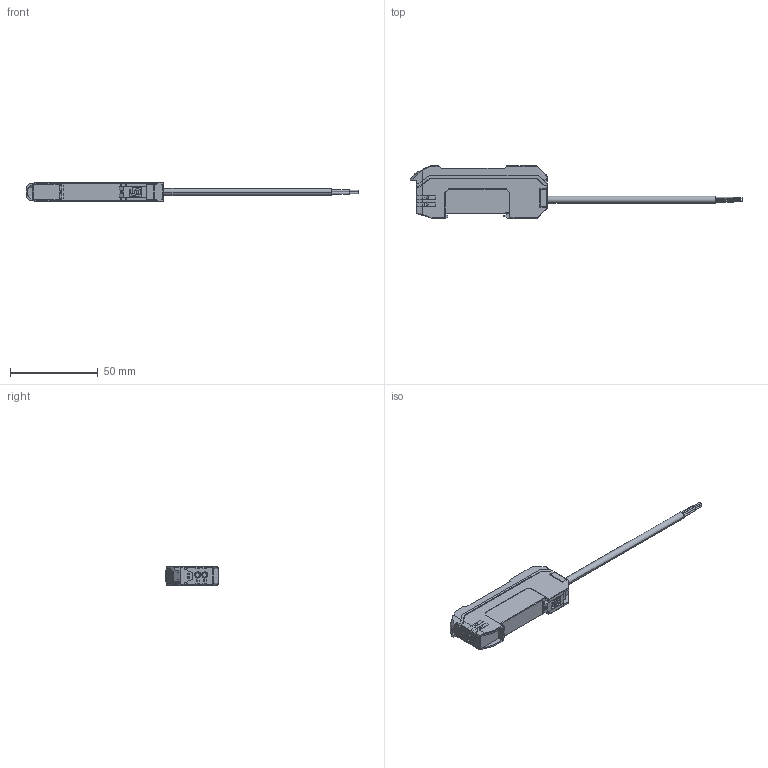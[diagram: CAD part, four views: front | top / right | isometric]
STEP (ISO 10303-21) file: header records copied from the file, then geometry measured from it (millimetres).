
FILE_DESCRIPTION((''),'2;1');
FILE_NAME('FC-NXX_3D_MODEL_ASM_ASM','2022-08-11T11:12:54',('HP'),(''),'CREO PARAMETRIC BY PTC INC, 2019224','CREO PARAMETRIC BY PTC INC, 2019224','');
FILE_SCHEMA(('AUTOMOTIVE_DESIGN { 1 0 10303 214 1 1 1 1 }'));
Length unit declared in the file: millimetre
Products named in the file (11): 1_3_RNM; 2_1_1_RNM; 2_1_RNM_ASM; 3_1_RNM; 4_1_RNM; 5_1_RNM; 6_1_RNM; 12345-RNM_ASM_3_RNM_ASM; 12345_ASM_3_RNM_ASM; 11111_ASM; FC-NXX_3D_MODEL_ASM_ASM
Assembly tree (10 placements, depth 6):
  FC-NXX_3D_MODEL_ASM_ASM
    11111_ASM
      12345_ASM_3_RNM_ASM
        12345-RNM_ASM_3_RNM_ASM
          1_3_RNM
          2_1_RNM_ASM
            2_1_1_RNM
          3_1_RNM
          4_1_RNM
          5_1_RNM
          6_1_RNM
Bounding box: 188.95 x 29.9 x 10.8 mm (x, y, z)
Volume: 19889.7 mm3; surface area: 13800.7 mm2
Topology: 6 solids, 6 shells, 562 faces, 1570 edges, 1036 vertices
Faces by surface type: plane 493, cylinder 65, cone 4
Entity records: 23743 total; most frequent: CARTESIAN_POINT 3478, ORIENTED_EDGE 3140, DIRECTION 3059, EDGE_CURVE 1570, VECTOR 1404, LINE 1404, PRESENTATION_STYLE_ASSIGNMENT 1259, STYLED_ITEM 1259
